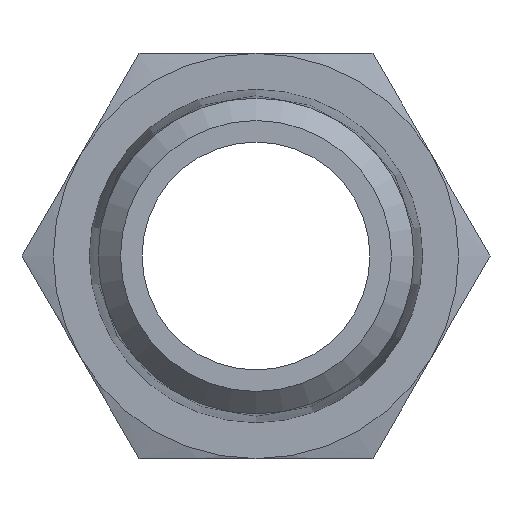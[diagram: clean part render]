
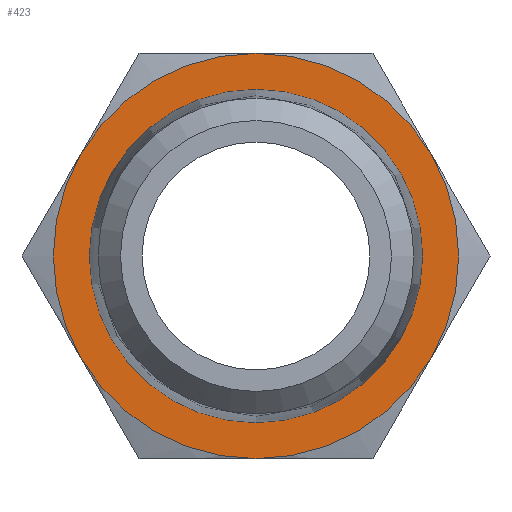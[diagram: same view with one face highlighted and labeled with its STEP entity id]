
A CAD part, left-side view. The second image highlights one B-rep face of the part: STEP entity #423.
In plain terms, the highlighted planar face has unit normal (-1, 0, 0).
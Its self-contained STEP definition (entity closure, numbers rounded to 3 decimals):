
#38=PLANE('',#485);
#47=CIRCLE('',#453,8.);
#48=CIRCLE('',#455,8.);
#49=CIRCLE('',#457,8.);
#50=CIRCLE('',#459,8.);
#51=CIRCLE('',#461,8.);
#52=CIRCLE('',#463,8.);
#63=CIRCLE('',#484,6.579);
#116=ORIENTED_EDGE('',*,*,#186,.F.);
#117=ORIENTED_EDGE('',*,*,#193,.F.);
#118=ORIENTED_EDGE('',*,*,#199,.F.);
#119=ORIENTED_EDGE('',*,*,#195,.F.);
#120=ORIENTED_EDGE('',*,*,#189,.F.);
#121=ORIENTED_EDGE('',*,*,#183,.F.);
#122=ORIENTED_EDGE('',*,*,#222,.T.);
#183=EDGE_CURVE('',#237,#239,#47,.T.);
#186=EDGE_CURVE('',#240,#237,#48,.T.);
#189=EDGE_CURVE('',#239,#243,#49,.T.);
#193=EDGE_CURVE('',#245,#240,#50,.T.);
#195=EDGE_CURVE('',#243,#247,#51,.T.);
#199=EDGE_CURVE('',#247,#245,#52,.T.);
#222=EDGE_CURVE('',#265,#265,#63,.T.);
#237=VERTEX_POINT('',#637);
#239=VERTEX_POINT('',#640);
#240=VERTEX_POINT('',#650);
#243=VERTEX_POINT('',#664);
#245=VERTEX_POINT('',#679);
#247=VERTEX_POINT('',#688);
#265=VERTEX_POINT('',#789);
#318=EDGE_LOOP('',(#116,#117,#118,#119,#120,#121));
#319=EDGE_LOOP('',(#122));
#364=FACE_BOUND('',#318,.T.);
#365=FACE_BOUND('',#319,.T.);
#423=ADVANCED_FACE('',(#364,#365),#38,.F.);
#453=AXIS2_PLACEMENT_3D('',#639,#513,#514);
#455=AXIS2_PLACEMENT_3D('',#652,#517,#518);
#457=AXIS2_PLACEMENT_3D('',#663,#521,#522);
#459=AXIS2_PLACEMENT_3D('',#680,#525,#526);
#461=AXIS2_PLACEMENT_3D('',#687,#529,#530);
#463=AXIS2_PLACEMENT_3D('',#703,#533,#534);
#484=AXIS2_PLACEMENT_3D('',#788,#575,#576);
#485=AXIS2_PLACEMENT_3D('',#790,#577,#578);
#513=DIRECTION('',(1.,0.,0.));
#514=DIRECTION('',(0.,0.,-1.));
#517=DIRECTION('',(1.,0.,0.));
#518=DIRECTION('',(0.,0.,-1.));
#521=DIRECTION('',(1.,0.,0.));
#522=DIRECTION('',(0.,0.,-1.));
#525=DIRECTION('',(1.,0.,0.));
#526=DIRECTION('',(0.,0.,-1.));
#529=DIRECTION('',(1.,0.,0.));
#530=DIRECTION('',(0.,0.,-1.));
#533=DIRECTION('',(1.,0.,0.));
#534=DIRECTION('',(0.,0.,-1.));
#575=DIRECTION('',(1.,0.,0.));
#576=DIRECTION('',(0.,0.,-1.));
#577=DIRECTION('',(1.,0.,0.));
#578=DIRECTION('',(0.,0.,-1.));
#637=CARTESIAN_POINT('',(13.35,6.928,4.));
#639=CARTESIAN_POINT('',(13.35,0.,0.));
#640=CARTESIAN_POINT('',(13.35,0.,8.));
#650=CARTESIAN_POINT('',(13.35,6.928,-4.));
#652=CARTESIAN_POINT('',(13.35,0.,0.));
#663=CARTESIAN_POINT('',(13.35,0.,0.));
#664=CARTESIAN_POINT('',(13.35,-6.928,4.));
#679=CARTESIAN_POINT('',(13.35,0.,-8.));
#680=CARTESIAN_POINT('',(13.35,0.,0.));
#687=CARTESIAN_POINT('',(13.35,0.,0.));
#688=CARTESIAN_POINT('',(13.35,-6.928,-4.));
#703=CARTESIAN_POINT('',(13.35,0.,0.));
#788=CARTESIAN_POINT('',(13.35,0.,0.));
#789=CARTESIAN_POINT('',(13.35,0.,-6.579));
#790=CARTESIAN_POINT('',(13.35,6.579,0.));
